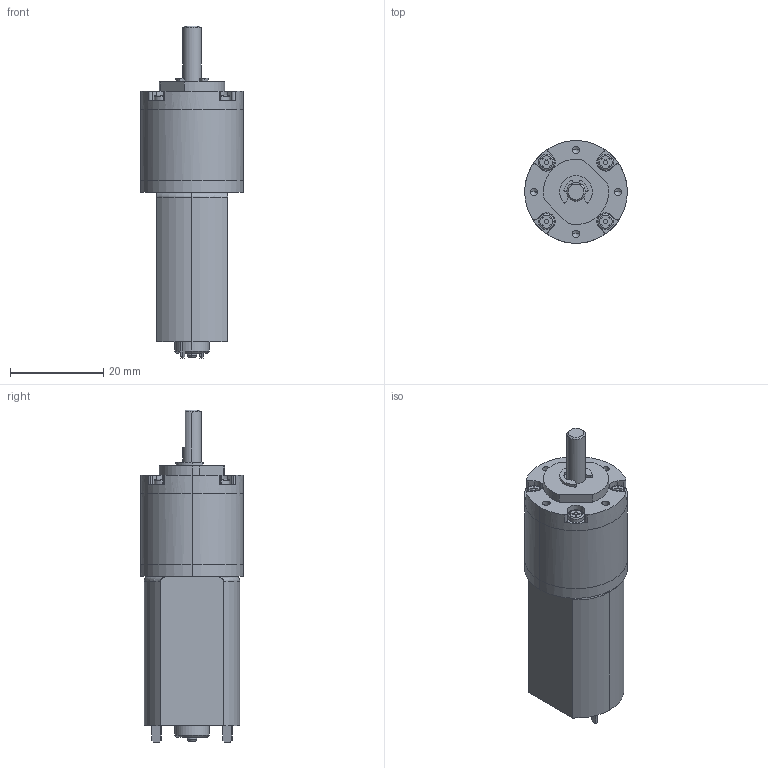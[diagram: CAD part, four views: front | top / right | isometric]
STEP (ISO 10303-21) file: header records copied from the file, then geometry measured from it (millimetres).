
FILE_DESCRIPTION((''),' ');
FILE_NAME('dsmp220_3.stp',' ',('R. Lindner'),('MSW GmbH'),' ','ACIS 14.0',' ');
FILE_SCHEMA(('automotive_design'));
Length unit declared in the file: inch
Products named in the file (4): DSMP220_3
Bounding box: 22 x 22 x 71.2 mm (x, y, z)
Volume: 19711.8 mm3; surface area: 7704.3 mm2
Topology: 4 solids, 4 shells, 357 faces, 955 edges, 610 vertices
Faces by surface type: cylinder 189, plane 125, cone 29, torus 14
Entity records: 14135 total; most frequent: DIRECTION 2080, CARTESIAN_POINT 1954, ORIENTED_EDGE 1862, EDGE_CURVE 931, AXIS2_PLACEMENT_3D 794, VERTEX_POINT 610, LINE 492, VECTOR 492
